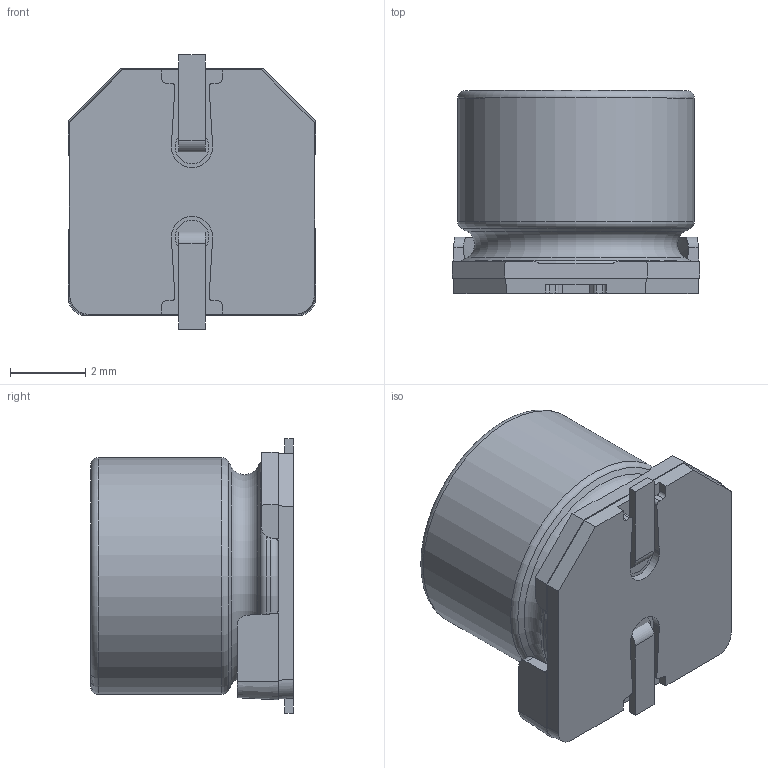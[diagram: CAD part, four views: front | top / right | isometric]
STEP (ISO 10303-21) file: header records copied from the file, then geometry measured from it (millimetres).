
FILE_DESCRIPTION (( 'STEP AP214' ), '1' );
FILE_NAME ('C55.STEP', '2019-07-09T23:55:01', ( '全社標準PC（ver1803）' ), ( 'パナソニック株式会社' ), 'SwSTEP 2.0', 'SolidWorks 2019', '' );
FILE_SCHEMA (( 'AUTOMOTIVE_DESIGN' ));
Length unit declared in the file: millimetre
Products named in the file (1): C55
Bounding box: 6.6 x 5.4 x 7.3 mm (x, y, z)
Surface area: 262.6 mm2 (no closed solid volume)
Topology: 0 solids, 6 shells, 101 faces, 292 edges, 198 vertices
Faces by surface type: plane 58, cylinder 32, cone 6, torus 5
Full cylindrical faces by diameter (mm): 6.25 x1, 6.3 x1
Entity records: 4491 total; most frequent: CARTESIAN_POINT 797, ORIENTED_EDGE 537, DIRECTION 501, EDGE_CURVE 282, VERTEX_POINT 197, LINE 183, VECTOR 183, AXIS2_PLACEMENT_3D 159
